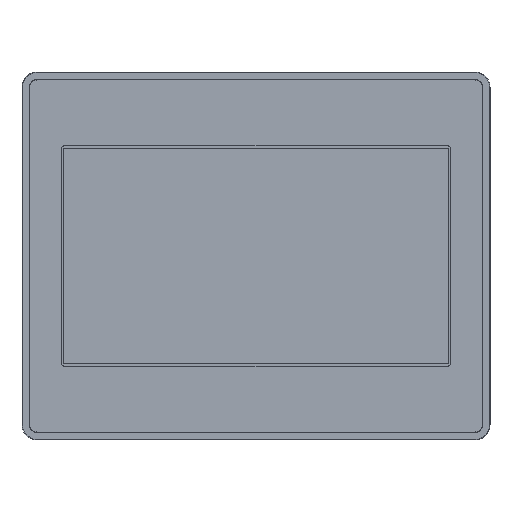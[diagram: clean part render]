
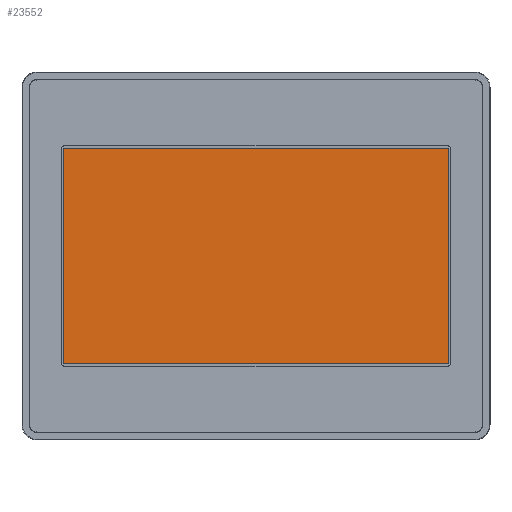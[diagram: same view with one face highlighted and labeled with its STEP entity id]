
A CAD part, top view. The second image highlights one B-rep face of the part: STEP entity #23552.
In plain terms, the highlighted planar face has unit normal (0, 0, 1).
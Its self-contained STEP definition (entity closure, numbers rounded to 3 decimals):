
#1517 = DIRECTION ( 'NONE',  ( 0., 1., 0. ) ) ;
#4505 = ORIENTED_EDGE ( 'NONE', *, *, #24713, .F. ) ;
#10574 = CARTESIAN_POINT ( 'NONE',  ( -76.99, -42.92, 2.9 ) ) ;
#11813 = VECTOR ( 'NONE', #1517, 1000. ) ;
#13185 = ORIENTED_EDGE ( 'NONE', *, *, #53673, .T. ) ;
#13748 = CARTESIAN_POINT ( 'NONE',  ( -76.99, 43., 2.9 ) ) ;
#15963 = AXIS2_PLACEMENT_3D ( 'NONE', #13748, #60651, #20521 ) ;
#19668 = VERTEX_POINT ( 'NONE', #50483 ) ;
#20521 = DIRECTION ( 'NONE',  ( 1., 0., 0. ) ) ;
#23511 = VECTOR ( 'NONE', #34712, 1000. ) ;
#23552 = ADVANCED_FACE ( 'NONE', ( #78091 ), #67075, .T. ) ;
#24713 = EDGE_CURVE ( 'NONE', #72924, #49727, #65296, .T. ) ;
#28238 = CARTESIAN_POINT ( 'NONE',  ( -76.99, 44.21, 2.9 ) ) ;
#31594 = LINE ( 'NONE', #70341, #85053 ) ;
#34712 = DIRECTION ( 'NONE',  ( -1., 0., 0. ) ) ;
#41349 = LINE ( 'NONE', #54629, #23511 ) ;
#44850 = LINE ( 'NONE', #78072, #46998 ) ;
#45023 = EDGE_CURVE ( 'NONE', #86874, #72924, #31594, .T. ) ;
#46924 = ORIENTED_EDGE ( 'NONE', *, *, #45023, .F. ) ;
#46998 = VECTOR ( 'NONE', #84814, 1000. ) ;
#49727 = VERTEX_POINT ( 'NONE', #78734 ) ;
#50483 = CARTESIAN_POINT ( 'NONE',  ( 77.09, 43., 2.9 ) ) ;
#53673 = EDGE_CURVE ( 'NONE', #86874, #19668, #44850, .T. ) ;
#54629 = CARTESIAN_POINT ( 'NONE',  ( 78.5, 43., 2.9 ) ) ;
#57767 = EDGE_LOOP ( 'NONE', ( #13185, #62954, #4505, #46924 ) ) ;
#60651 = DIRECTION ( 'NONE',  ( 0., 0., 1. ) ) ;
#62954 = ORIENTED_EDGE ( 'NONE', *, *, #72181, .T. ) ;
#63925 = DIRECTION ( 'NONE',  ( -1., 0., 0. ) ) ;
#65296 = LINE ( 'NONE', #28238, #11813 ) ;
#67075 = PLANE ( 'NONE',  #15963 ) ;
#70341 = CARTESIAN_POINT ( 'NONE',  ( 78.5, -42.92, 2.9 ) ) ;
#72181 = EDGE_CURVE ( 'NONE', #19668, #49727, #41349, .T. ) ;
#72924 = VERTEX_POINT ( 'NONE', #10574 ) ;
#78072 = CARTESIAN_POINT ( 'NONE',  ( 77.09, 44.21, 2.9 ) ) ;
#78091 = FACE_OUTER_BOUND ( 'NONE', #57767, .T. ) ;
#78734 = CARTESIAN_POINT ( 'NONE',  ( -76.99, 43., 2.9 ) ) ;
#84752 = CARTESIAN_POINT ( 'NONE',  ( 77.09, -42.92, 2.9 ) ) ;
#84814 = DIRECTION ( 'NONE',  ( 0., 1., 0. ) ) ;
#85053 = VECTOR ( 'NONE', #63925, 1000. ) ;
#86874 = VERTEX_POINT ( 'NONE', #84752 ) ;
